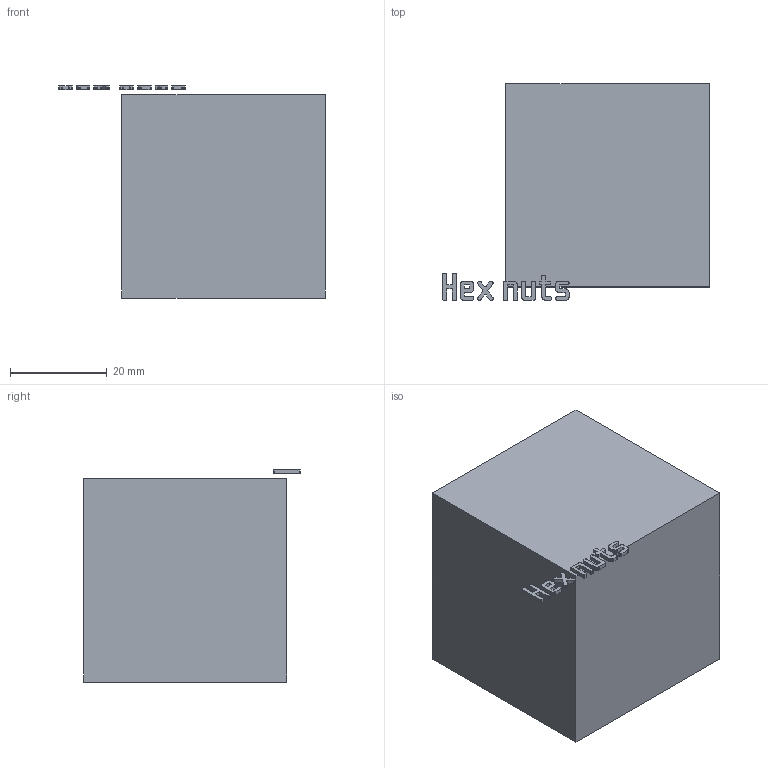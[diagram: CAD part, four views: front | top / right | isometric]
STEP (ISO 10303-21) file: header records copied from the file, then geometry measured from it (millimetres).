
FILE_DESCRIPTION(('Open CASCADE Model'),'2;1');
FILE_NAME('Open CASCADE Shape Model','2026-11-03T16:03:59',('Author'),( 'Open CASCADE'),'Open CASCADE STEP processor 8.0','build123d', 'Unknown');
FILE_SCHEMA(('AUTOMOTIVE_DESIGN { 1 0 10303 214 1 1 1 1 }'));
Length unit declared in the file: millimetre
Products named in the file (1): COMPOUND
Bounding box: 55.04 x 44.8 x 43.8 mm (x, y, z)
Volume: 19258 mm3; surface area: 19462.9 mm2
Topology: 8 solids, 9 shells, 653 faces, 1905 edges, 1270 vertices
Faces by surface type: plane 653
Entity records: 45894 total; most frequent: CARTESIAN_POINT 7647, DIRECTION 7015, LINE 5707, VECTOR 5707, ORIENTED_EDGE 3810, PCURVE 3810, DEFINITIONAL_REPRESENTATION 3810, EDGE_CURVE 1905
